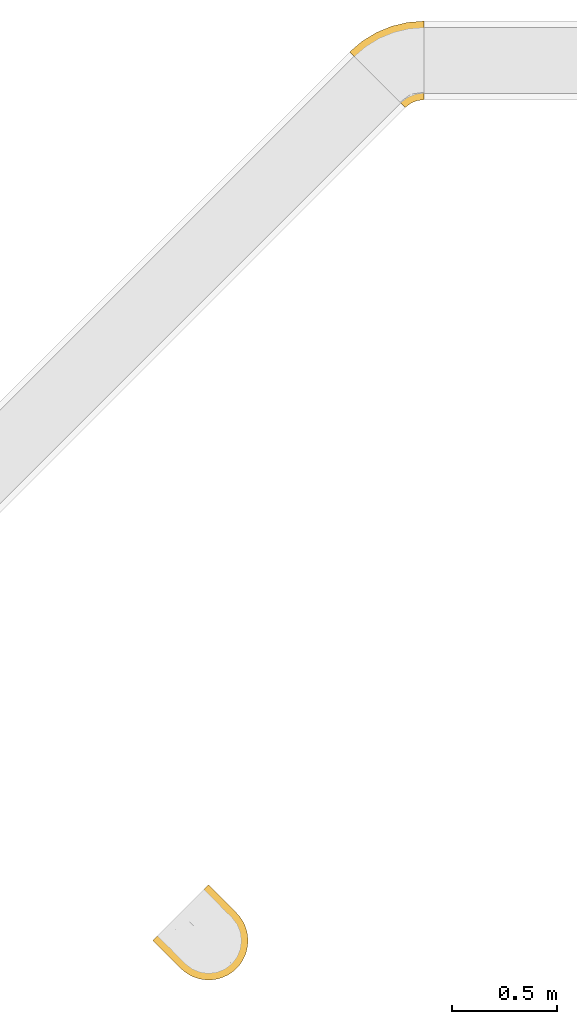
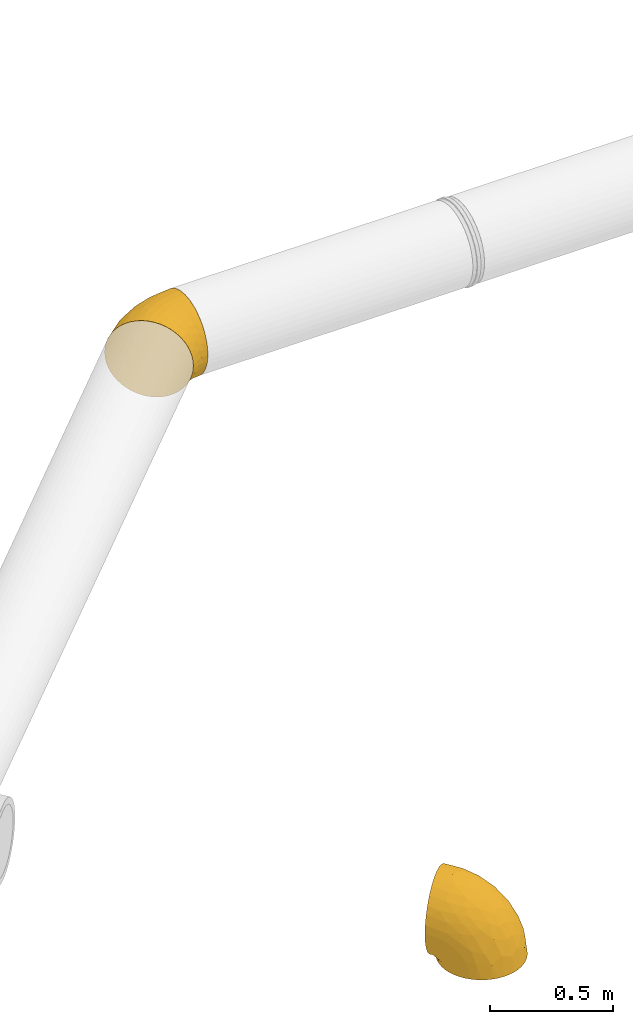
# One storey, part 3 of 7: 2 coverings.
"""IFC2X3 building model written with IfcOpenShell, lengths in millimetres."""

from ifc_helpers import new_model, entity, si_unit, converted_unit, derived_unit, direction, frame, origin_with_axes, place, context, subcontext, project, spatial, open_shell, surface_model, source, transform, mapped, element, save


model = new_model("IFC2X3")

# Units and contexts
model_context = context("Model", 3, precision=0.01, world=frame((0.0, 4.29681676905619e-09, 0.0)), true_north=direction((4.01073788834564e-13, 1.0)))
plan_context = context("Plan", 3, precision=0.01, world=frame((0.0, 4.29681676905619e-09, 0.0)), true_north=direction((4.01073788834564e-13, 1.0)))
body_context = subcontext(model_context, "Body", "Model", "MODEL_VIEW")
ifc_project = project(units=[converted_unit("PLANEANGLEUNIT", "DEGREE", entity("IfcPositiveLengthMeasure", 0.0174532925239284), si_unit("PLANEANGLEUNIT", "RADIAN"), dimensions=[0, 0, 0, 0, 0, 0, 0]), si_unit("AREAUNIT", "SQUARE_METRE"), si_unit("LENGTHUNIT", "METRE", prefix="MILLI"), si_unit("MASSUNIT", "GRAM", prefix="KILO"), si_unit("POWERUNIT", "WATT"), si_unit("PRESSUREUNIT", "PASCAL", prefix="KILO"), si_unit("FORCEUNIT", "NEWTON", prefix="KILO"), si_unit("ELECTRICVOLTAGEUNIT", "VOLT"), si_unit("ELECTRICCURRENTUNIT", "AMPERE"), si_unit("THERMODYNAMICTEMPERATUREUNIT", "DEGREE_CELSIUS"), si_unit("TIMEUNIT", "SECOND"), si_unit("VOLUMEUNIT", "CUBIC_METRE"), derived_unit("LINEARVELOCITYUNIT", [(si_unit("LENGTHUNIT", "METRE"), 1), (si_unit("TIMEUNIT", "SECOND"), -1)]), derived_unit("VOLUMETRICFLOWRATEUNIT", [(si_unit("VOLUMEUNIT", "CUBIC_METRE"), 1), (si_unit("TIMEUNIT", "SECOND"), -1)]), derived_unit("THERMALTRANSMITTANCEUNIT", [(si_unit("POWERUNIT", "WATT"), 1), (si_unit("THERMODYNAMICTEMPERATUREUNIT", "KELVIN"), -1), (si_unit("AREAUNIT", "SQUARE_METRE"), -1)]), derived_unit("SOUNDPRESSUREUNIT", [(si_unit("PRESSUREUNIT", "PASCAL"), 1)])], contexts=[model_context, plan_context])

# Site, building, storey
site_placement = place(None, frame((0.0, -4.29681676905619e-09, 0.0), z_axis=(0.0, 0.0, 1.0), x_axis=(1.0, 0.0, 0.0)))
site = spatial("IfcSite", under=ifc_project, at=site_placement, CompositionType="ELEMENT")
building_placement = place(site_placement, frame((0.0, 4.29681676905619e-09, 0.0), z_axis=(0.0, 0.0, 1.0), x_axis=(1.0, 0.0, 0.0)))
building = spatial("IfcBuilding", under=site, at=building_placement, Name="mc-building", CompositionType="ELEMENT")
storey_placement = place(building_placement, frame((0.0, 0.0, 207370.0), z_axis=(0.0, 0.0, 1.0), x_axis=(1.0, 0.0, 0.0)))
storey = spatial("IfcBuildingStorey", under=building, at=storey_placement, Name="Nivå E", CompositionType="ELEMENT", Elevation=207370.0)

# Coverings
shared_shape_1 = source(origin_with_axes(), body_context, "Body", "SurfaceModel", [
    surface_model("IfcShellBasedSurfaceModel", [(25.96801, 158.55473, 162.37804), (41.52173, 143.00099, 173.22595), (57.94361, 126.57912, 181.11), (-1.48733, 186.01005, -132.58437), (-12.92212, 197.44485, -114.14517), (11.55147, 172.97126, -148.75509), (41.52511, 142.99762, -173.22793), (25.97119, 158.55153, -162.38066), (57.9471, 126.57563, -181.11133), (92.26137, 92.26137, -187.5), (74.95619, 109.56653, -185.89598), (74.95255, 109.57017, 185.89528), (92.26137, 92.26137, 187.5), (214.75061, -30.22788, 71.75667), (220.32547, -35.80275, 48.53263), (223.70918, -39.18646, 24.47835), (126.57912, 57.94361, -181.11), (158.55473, 25.96801, -162.37804), (143.00099, 41.52173, -173.22595), (214.75201, -30.22928, -71.7519), (223.70967, -39.18694, -24.47321), (220.32641, -35.80368, -48.5277), (197.44711, -12.92437, -114.14103), (207.08182, -22.55909, -93.74847), (-130.47727, 187.5, 0.0), (-130.47727, 182.79898, -41.72268), (-130.47727, 168.93166, -81.3532), (-130.47727, 182.79898, 41.72268), (-130.47727, 81.3532, -168.93166), (-130.47727, 146.5934, -116.90434), (-130.47727, 116.90434, -146.5934), (-130.47727, 41.72268, -182.79898), (-130.47727, 168.93166, 81.3532), (-130.47727, 116.90434, 146.5934), (-130.47727, 146.5934, 116.90434), (-130.47727, 81.3532, 168.93166), (-130.47727, 41.72268, 182.79898), (-130.47727, -81.3532, 168.93166), (-130.47727, 0.0, 187.5), (-130.47727, -146.5934, -116.90434), (-130.47727, 0.0, -187.5), (-130.47727, -41.72268, -182.79898), (-130.47727, -116.90434, -146.5934), (-130.47727, -81.3532, -168.93166), (-130.47727, -168.93166, -81.3532), (-130.47727, -182.79898, -41.72268), (-130.47727, -187.5, 0.0), (-130.47727, -146.5934, 116.90434), (-130.47727, -116.90434, 146.5934), (-130.47727, -41.72268, 182.79898), (-130.47727, -182.79898, 41.72268), (-130.47727, -168.93166, 81.3532), (-13.05757, -163.66129, 59.3682), (24.80377, -162.9059, 0.0), (119.0438, -110.6974, 57.59217), (-51.86895, -181.31339, 0.0), (105.63611, -35.5905, 153.49277), (186.01005, -1.48733, 132.58437), (172.97126, 11.55147, 148.75509), (-9.93199, 23.97795, 187.5), (-69.02382, 6.05264, 187.5), (-24.18486, -21.4377, 183.64424), (97.65295, -132.73078, 0.0), (-44.60167, -152.43414, 97.33404), (-51.53473, -100.6689, 153.20219), (-33.06137, -124.89279, 129.54682), (32.06085, -79.17147, 150.84226), (127.27541, -88.98516, 90.50929), (197.44485, -12.92212, 114.14517), (116.12075, -71.64393, 120.57518), (50.36585, -123.55198, 98.77102), (126.57563, 57.9471, 181.11133), (109.56653, 74.95619, 185.89598), (51.12215, 15.82916, 184.20938), (44.27021, -104.114, 125.74419), (-41.85647, -63.36274, 172.4497), (43.13394, -25.86216, 174.91765), (158.55153, 25.97119, 162.38066), (142.99762, 41.52511, 173.22793), (164.88481, -91.53104, 0.0), (44.52735, 53.08707, 187.5), (207.07998, -22.55726, 93.75296), (224.84389, -40.32116, 0.0), (-47.41546, 41.18188, 185.26549), (-90.30031, 32.39972, 185.15554), (-12.69755, 140.13908, 155.89877), (11.54854, 172.97418, 148.75191), (-1.48994, 186.01266, 132.58067), (-109.97195, 186.96828, 28.40047), (-103.09719, 179.72115, 61.92732), (-80.72819, 192.57862, 41.47092), (-73.98975, 179.4645, 82.92771), (-55.53136, 199.77987, 60.26883), (33.25128, 86.12967, 184.46576), (-5.36458, 59.69187, 184.97223), (-68.10413, 69.73407, 176.97813), (-90.18339, 137.0884, 132.58252), (-102.95113, 161.20468, 99.75601), (-76.21987, 159.67276, 111.8718), (-3.52668, 94.16287, 177.54812), (-50.08014, 120.10333, 155.89877), (-91.80882, 103.25788, 158.76079), (-55.16911, 209.52809, 27.97056), (-35.80368, 220.32641, 48.5277), (-39.18694, 223.70967, 24.47321), (-61.81071, 142.82054, 135.46768), (-43.56419, 164.2286, 123.62552), (-66.72727, 204.58175, 0.0), (-97.47784, 191.84445, 0.0), (-30.22928, 214.75201, 71.7519), (-48.74427, 185.8428, 94.13978), (-40.32116, 224.84389, 0.0), (-12.92437, 197.44711, 114.14103), (-22.55909, 207.08182, 93.74847), (-80.73721, 194.91688, -30.37679), (-96.45994, 181.23581, -61.92732), (-108.82318, 186.79358, -30.65098), (-41.59483, 183.04124, -104.17209), (-93.7433, 64.60752, -176.97813), (-22.55726, 207.07998, -93.75296), (-89.01133, 33.60428, -184.99189), (-102.40899, 161.30269, -99.75601), (-62.93987, 123.78349, -150.21941), (-91.80882, 103.25788, -158.76079), (-90.18339, 137.08839, -132.58252), (-41.19931, 100.78752, -168.16434), (-51.42745, 54.40765, -182.57745), (-61.97395, 195.83492, -60.27369), (-69.8056, 167.92129, -104.17208), (8.41707, 101.46703, -177.54975), (3.9859, 63.4371, -185.12386), (-64.37689, 148.35214, -129.36737), (-9.93199, 23.97795, -187.5), (-69.02382, 6.05264, -187.5), (38.12068, 88.84369, -184.58833), (-35.80275, 220.32547, -48.53263), (-30.22788, 214.75061, -71.75667), (-34.90126, 149.20068, -140.97156), (-55.55153, 208.73408, -30.66315), (44.52735, 53.08707, -187.5), (-39.18646, 223.70918, -24.47835), (-12.3742, 128.3696, -162.15411), (-41.88258, -63.3573, -172.45452), (-24.18548, -21.43621, -183.64457), (51.11487, 15.81953, -184.20854), (43.10908, -25.88229, -174.91509), (109.57017, 74.95255, -185.89528), (124.53859, -90.41669, -90.97105), (186.01266, -1.48994, -132.58067), (98.55237, -82.93391, -119.92093), (105.58832, -35.63101, -153.48792), (-51.57955, -100.6989, -153.18729), (31.95353, -79.22568, -150.83546), (-33.12913, -124.90567, -129.549), (29.33211, -124.25912, -109.18968), (-44.40359, -152.35948, -97.39592), (-34.47301, -168.2494, -59.84396), (140.05003, -97.4628, -58.11849), (60.3088, -145.59836, -38.29305), (56.2981, -133.10755, -78.06868), (172.97418, 11.54854, -148.75191)], [open_shell([[[0, 1, 2]], [[3, 4, 5]], [[5, 6, 7]], [[6, 5, 8]], [[8, 9, 10]], [[11, 12, 9]], [[13, 14, 15]], [[16, 17, 18]], [[19, 20, 21]], [[22, 19, 23]], [[24, 25, 26]], [[27, 24, 26]], [[26, 28, 27]], [[29, 30, 28]], [[26, 29, 28]], [[27, 28, 31]], [[32, 33, 34]], [[33, 32, 27]], [[35, 33, 36]], [[36, 33, 27]], [[31, 36, 27]], [[36, 37, 38]], [[36, 31, 39]], [[39, 40, 41]], [[42, 41, 43]], [[39, 37, 36]], [[44, 45, 39]], [[39, 41, 42]], [[46, 39, 45]], [[37, 47, 48]], [[49, 38, 37]], [[50, 47, 39]], [[51, 47, 50]], [[47, 37, 39]], [[50, 39, 46]], [[31, 40, 39]], [[52, 53, 54]], [[55, 50, 46]], [[56, 57, 58]], [[59, 60, 61]], [[53, 62, 54]], [[47, 51, 63]], [[64, 65, 66]], [[67, 68, 69]], [[63, 52, 70]], [[52, 55, 53]], [[71, 72, 73]], [[70, 74, 65]], [[75, 76, 61]], [[76, 75, 66]], [[56, 77, 78]], [[75, 49, 37]], [[65, 48, 47]], [[61, 73, 59]], [[79, 54, 62]], [[60, 38, 49]], [[52, 51, 50]], [[73, 61, 76]], [[65, 64, 48]], [[56, 66, 74]], [[54, 14, 13]], [[60, 49, 61]], [[69, 68, 57]], [[70, 67, 69]], [[73, 80, 59]], [[69, 57, 56]], [[66, 75, 64]], [[14, 54, 15]], [[13, 67, 54]], [[67, 13, 81]], [[68, 67, 81]], [[79, 82, 15]], [[78, 76, 56]], [[71, 73, 76]], [[72, 80, 73]], [[12, 80, 72]], [[63, 65, 47]], [[54, 70, 52]], [[52, 63, 51]], [[67, 70, 54]], [[49, 75, 61]], [[76, 78, 71]], [[37, 48, 64]], [[66, 56, 76]], [[58, 77, 56]], [[74, 70, 69]], [[65, 63, 70]], [[79, 15, 54]], [[37, 64, 75]], [[52, 50, 55]], [[56, 74, 69]], [[66, 65, 74]], [[59, 83, 60]], [[84, 38, 60]], [[85, 86, 87]], [[88, 27, 89]], [[83, 84, 60]], [[90, 91, 92]], [[93, 94, 80]], [[94, 95, 83]], [[34, 96, 97]], [[85, 0, 86]], [[24, 27, 88]], [[97, 96, 98]], [[99, 100, 95]], [[32, 34, 97]], [[33, 35, 101]], [[102, 103, 104]], [[98, 96, 105]], [[90, 89, 91]], [[34, 33, 96]], [[27, 32, 89]], [[97, 91, 89]], [[95, 101, 35]], [[2, 1, 99]], [[84, 95, 36]], [[36, 95, 35]], [[85, 87, 106]], [[85, 99, 1]], [[97, 89, 32]], [[2, 99, 93]], [[1, 0, 85]], [[97, 98, 91]], [[90, 107, 108]], [[11, 80, 12]], [[99, 94, 93]], [[101, 96, 33]], [[103, 92, 109]], [[110, 109, 92]], [[92, 91, 110]], [[102, 92, 103]], [[95, 100, 101]], [[107, 102, 111]], [[100, 96, 101]], [[99, 85, 100]], [[91, 98, 110]], [[105, 85, 106]], [[87, 112, 106]], [[88, 90, 108]], [[110, 112, 113]], [[94, 83, 59]], [[90, 92, 102]], [[80, 94, 59]], [[95, 94, 99]], [[80, 11, 93]], [[2, 93, 11]], [[95, 84, 83]], [[38, 84, 36]], [[105, 96, 100]], [[110, 98, 106]], [[85, 105, 100]], [[106, 98, 105]], [[112, 110, 106]], [[109, 110, 113]], [[111, 102, 104]], [[90, 102, 107]], [[90, 88, 89]], [[24, 88, 108]], [[114, 115, 116]], [[116, 24, 108]], [[117, 4, 3]], [[28, 118, 31]], [[117, 119, 4]], [[108, 107, 114]], [[31, 118, 120]], [[121, 29, 26]], [[122, 123, 124]], [[28, 30, 123]], [[40, 31, 120]], [[118, 125, 126]], [[127, 128, 115]], [[118, 123, 125]], [[129, 130, 125]], [[125, 130, 126]], [[122, 124, 131]], [[127, 117, 128]], [[124, 30, 29]], [[132, 133, 126]], [[134, 8, 10]], [[115, 121, 26]], [[127, 135, 136]], [[120, 126, 133]], [[25, 115, 26]], [[117, 3, 137]], [[117, 127, 136]], [[30, 124, 123]], [[135, 127, 138]], [[136, 119, 117]], [[123, 122, 125]], [[132, 130, 139]], [[138, 111, 140]], [[138, 107, 111]], [[121, 124, 29]], [[6, 8, 129]], [[141, 6, 129]], [[129, 125, 141]], [[130, 134, 139]], [[121, 115, 128]], [[139, 134, 9]], [[128, 124, 121]], [[116, 115, 25]], [[122, 141, 125]], [[131, 117, 137]], [[3, 5, 137]], [[134, 130, 129]], [[141, 5, 7]], [[123, 118, 28]], [[126, 130, 132]], [[126, 120, 118]], [[40, 120, 133]], [[8, 134, 129]], [[134, 10, 9]], [[131, 124, 128]], [[141, 122, 137]], [[117, 131, 128]], [[137, 122, 131]], [[5, 141, 137]], [[6, 141, 7]], [[138, 114, 107]], [[115, 114, 127]], [[135, 138, 140]], [[114, 138, 127]], [[24, 116, 25]], [[114, 116, 108]], [[142, 41, 143]], [[143, 144, 145]], [[16, 144, 146]], [[143, 133, 132]], [[40, 133, 41]], [[147, 22, 23]], [[145, 16, 18]], [[148, 149, 150]], [[151, 152, 153]], [[132, 139, 144]], [[41, 142, 43]], [[42, 153, 39]], [[55, 46, 45]], [[154, 149, 147]], [[152, 154, 153]], [[44, 39, 155]], [[156, 45, 44]], [[42, 151, 153]], [[151, 43, 142]], [[156, 55, 45]], [[19, 21, 157]], [[158, 62, 53]], [[44, 155, 156]], [[155, 159, 156]], [[144, 139, 146]], [[155, 153, 154]], [[16, 145, 144]], [[156, 158, 53]], [[159, 158, 156]], [[150, 18, 17]], [[17, 160, 150]], [[149, 154, 152]], [[22, 149, 148]], [[53, 55, 156]], [[157, 158, 159]], [[150, 145, 18]], [[154, 159, 155]], [[150, 149, 152]], [[157, 147, 19]], [[159, 147, 157]], [[150, 160, 148]], [[154, 147, 159]], [[79, 157, 20]], [[142, 143, 145]], [[82, 79, 20]], [[20, 157, 21]], [[62, 157, 79]], [[157, 62, 158]], [[41, 133, 143]], [[155, 39, 153]], [[145, 150, 152]], [[146, 139, 9]], [[152, 142, 145]], [[132, 144, 143]], [[22, 147, 149]], [[19, 147, 23]], [[43, 151, 42]], [[142, 152, 151]], [[87, 86, 0]], [[136, 4, 119]], [[9, 8, 5]], [[57, 77, 58]], [[13, 68, 81]], [[17, 148, 160]], [[87, 104, 109]], [[113, 87, 109]], [[104, 103, 109]], [[135, 111, 104]], [[87, 113, 112]], [[2, 135, 0]], [[104, 0, 135]], [[87, 0, 104]], [[9, 2, 11]], [[4, 136, 5]], [[135, 5, 136]], [[140, 111, 135]], [[135, 2, 5]], [[9, 5, 2]], [[78, 12, 72]], [[78, 72, 71]], [[68, 78, 77]], [[12, 78, 16]], [[17, 78, 68]], [[19, 68, 13]], [[77, 57, 68]], [[82, 13, 15]], [[22, 148, 17]], [[78, 17, 16]], [[146, 9, 16]], [[20, 19, 82]], [[22, 17, 19]], [[68, 19, 17]], [[82, 19, 13]], [[16, 9, 12]]])]),
])
covering_1_placement = place(storey_placement, frame((601598.64514, 404951.79391, 120.0), z_axis=(0.0, 0.0, 1.0), x_axis=(-1.0, 0.0, 0.0)))
element("IfcCovering", 1, at=covering_1_placement, inside=storey, Name="EI30-30", PredefinedType="INSULATION", context=body_context, shape_type="MappedRepresentation", body=[
    mapped(shared_shape_1, transform((0.0, 0.0, 0.0), scale=1.0)),
])
shared_shape_2 = source(origin_with_axes(), body_context, "Body", "SurfaceModel", [
    surface_model("IfcShellBasedSurfaceModel", [(24.47321, 189.0, 185.89598), (71.7519, 189.0, 173.22793), (93.74847, 189.0, 162.38066), (173.22595, 189.0, 71.75667), (48.5277, 189.0, 181.11133), (-48.53263, 189.0, 181.11), (0.0, 189.0, 187.5), (114.14103, 189.0, 148.75509), (187.5, 189.0, 0.0), (181.11, 189.0, 48.53263), (-187.5, 189.0, 0.0), (148.75191, 189.0, 114.14517), (162.37804, 189.0, 93.75296), (132.58067, 189.0, 132.58437), (-71.75667, 189.0, 173.22595), (-173.22793, 189.0, 71.7519), (-114.14517, 189.0, 148.75191), (-93.75296, 189.0, 162.37804), (-132.58437, 189.0, 132.58067), (-24.47835, 189.0, 185.89528), (-148.75509, 189.0, 114.14103), (-162.38066, 189.0, 93.74847), (-185.89598, 189.0, 24.47321), (-181.11133, 189.0, 48.5277), (185.89528, 189.0, 24.47835), (162.38066, 189.0, -93.74847), (185.89598, 189.0, -24.47321), (181.11133, 189.0, -48.5277), (148.75509, 189.0, -114.14103), (173.22793, 189.0, -71.7519), (93.75296, 189.0, -162.37804), (114.14517, 189.0, -148.75191), (-185.89528, 189.0, -24.47835), (48.53263, 189.0, -181.11), (71.75667, 189.0, -173.22595), (132.58437, 189.0, -132.58067), (24.47835, 189.0, -185.89528), (-148.75191, 189.0, -114.14517), (-173.22595, 189.0, -71.75667), (-132.58067, 189.0, -132.58437), (-162.37804, 189.0, -93.75296), (-181.11, 189.0, -48.53263), (-114.14103, 189.0, -148.75509), (0.0, 189.0, -187.5), (-48.5277, 189.0, -181.11133), (-24.47321, 189.0, -185.89598), (-93.74847, 189.0, -162.38066), (-71.7519, 189.0, -173.22793), (-189.0, 187.5, 0.0), (-189.0, 182.79898, -41.72268), (-189.0, 168.93166, -81.3532), (-189.0, 182.79898, 41.72268), (-189.0, 146.5934, -116.90434), (-189.0, 81.3532, -168.93166), (-189.0, 116.90434, -146.5934), (-189.0, -182.79898, -41.72268), (-189.0, 146.5934, 116.90434), (-189.0, 168.93166, 81.3532), (-189.0, 116.90434, 146.5934), (-189.0, 81.3532, 168.93166), (-189.0, 41.72268, 182.79898), (-189.0, -41.72268, 182.79898), (-189.0, 0.0, 187.5), (-189.0, 41.72268, -182.79898), (-189.0, 0.0, -187.5), (-189.0, -41.72268, -182.79898), (-189.0, -81.3532, -168.93166), (-189.0, -146.5934, -116.90434), (-189.0, -168.93166, -81.3532), (-189.0, -116.90434, -146.5934), (-189.0, -81.3532, 168.93166), (-189.0, -182.79898, 41.72268), (-189.0, -116.90434, 146.5934), (-189.0, -187.5, 0.0), (-189.0, -146.5934, 116.90434), (-189.0, -168.93166, 81.3532), (-123.62146, -181.78011, 0.0), (131.00611, 34.7738, 86.7366), (116.2493, -23.03647, 42.29538), (150.56795, 34.06552, 34.79076), (116.75752, 49.83271, 116.46932), (138.40764, 105.96712, 114.11841), (-60.22942, -164.79427, 0.0), (-98.00606, -169.93707, 47.85062), (-34.96027, -148.60051, 44.74542), (-0.75, -137.05857, 0.0), (23.03646, -116.24931, 42.29538), (107.19325, 129.21733, 149.49804), (19.40719, 39.31564, 174.89339), (-28.74646, 28.74646, 183.68459), (-21.32444, -11.28474, 173.03875), (53.00954, -99.41573, 0.0), (99.41573, -53.00954, 0.0), (75.28762, -75.28762, 31.94231), (-4.73862, 146.94355, 187.5), (18.17023, 97.11479, 183.68459), (153.59609, 90.58253, 84.35671), (17.543, -105.37318, 77.78346), (-70.75464, -94.53068, 145.55102), (-113.41751, -131.91148, 123.94346), (-42.08623, -113.92396, 115.54163), (63.72205, 103.75344, 170.63722), (-135.02934, -103.2027, 153.16943), (97.81471, 67.75231, 142.04563), (-119.61091, -71.50772, 169.29677), (-49.02927, -56.6938, 162.36989), (-117.75937, -158.26252, 88.13487), (65.06652, 18.70282, 146.62799), (23.43514, -1.10654, 161.01355), (-81.78041, -33.85675, 178.20339), (-106.99598, 18.71688, 187.5), (-146.94355, 4.73862, 187.5), (83.67589, -13.979, 111.24879), (-71.16043, 41.23385, 187.5), (68.22673, -68.22674, 67.90038), (137.05857, 0.75, 0.0), (181.78011, 123.62146, 0.0), (167.74294, 94.73946, 52.54839), (164.79427, 60.22942, 0.0), (-44.5778, -138.76006, 80.86028), (104.71048, -19.65463, 76.28221), (26.68706, -77.15993, 107.5593), (-18.71688, 106.99598, 187.5), (-41.23385, 71.16043, 187.5), (-15.80153, -68.72924, 142.79137), (32.01071, -32.01072, 141.03219), (-176.19751, 134.05432, 132.58252), (-124.93387, 87.03934, 174.50712), (-102.05216, 113.98818, 172.20789), (-131.42615, 119.01311, 159.62027), (-105.67825, 56.3942, 184.68124), (-140.57933, 50.62167, 182.6443), (-85.33438, 85.33438, 182.6443), (-102.14389, 144.93778, 163.5985), (-107.6681, 164.89824, 155.89875), (-127.09675, 157.59639, 144.4135), (-167.47117, 64.84754, 176.60099), (-143.86207, 172.58968, 123.62553), (-39.76273, 158.03345, 183.89637), (-71.19509, 113.22127, 181.00383), (-185.45311, 177.51326, 61.92732), (-146.89268, 80.62835, 172.81725), (-187.25737, 185.15926, 31.80733), (-188.17458, 184.97405, 31.17412), (-157.7607, 158.9357, 118.08522), (-174.31638, 162.56515, 99.75601), (-158.02682, 135.13338, 138.06488), (-162.20621, 103.87315, 158.76079), (-182.51023, 159.46539, 99.75601), (-41.61213, 128.81705, 185.11701), (-183.9143, 182.0876, 51.04398), (-187.67047, 188.58845, 0.0), (-185.16722, 188.09782, 30.13522), (-68.66665, 166.65327, 175.26966), (-68.79156, 142.9523, 177.5481), (-149.5197, 164.34126, 121.91708), (-171.28406, 178.03323, 82.92773), (-178.03267, 185.70976, 60.26884), (-164.19163, 180.10848, 93.28671), (-187.93935, 187.93935, 0.0), (-184.11046, 185.16402, 41.78253), (-187.80491, 188.26389, 0.0), (-185.23431, 187.29613, 31.31337), (-144.76419, 107.27908, 161.01524), (-174.15834, 172.3665, 85.81845), (-142.46299, 141.61551, 141.8775), (-121.5135, 137.60599, 155.89875), (-188.58845, 187.67047, 0.0), (-188.26389, 187.80491, 0.0), (-128.84212, 131.28567, -154.91204), (-131.04861, 96.77089, -169.54109), (-156.03415, 134.54028, -139.44948), (-142.2154, 55.29731, -181.42323), (-146.94355, 4.73862, -187.5), (-112.0226, 66.49117, -182.18806), (-185.7308, 177.43118, -61.92732), (-188.22568, 185.12898, -30.19768), (-187.11968, 184.86731, -33.62861), (-168.58706, 184.81279, -82.93238), (-182.1809, 175.37349, -70.44749), (-175.94635, 161.72341, -99.75601), (-103.84817, 116.33511, -170.93368), (-182.82158, 159.3987, -99.75601), (-164.45977, 178.11373, -94.14081), (-143.76612, 172.84577, -123.62946), (-60.1877, 118.4714, -182.70247), (-96.28123, 137.4776, -168.16434), (-64.90654, 154.75785, -177.54975), (-34.51671, 159.66931, -184.79108), (-164.12888, 103.29168, -158.76079), (-176.48127, 133.98897, -132.58252), (-88.83711, 88.83711, -181.42323), (-41.23385, 71.16043, -187.5), (-178.28483, 184.95886, -60.2737), (-71.16043, 41.23385, -187.5), (-106.99598, 18.71688, -187.5), (-184.00047, 187.97446, -36.58382), (-183.82381, 184.93915, -43.34552), (-183.6807, 181.63928, -52.77894), (-107.22395, 166.43484, -155.90166), (-18.71688, 106.99598, -187.5), (-126.01449, 155.18982, -146.10544), (-4.73862, 146.94355, -187.5), (-174.76991, 179.54278, -74.84557), (-175.68521, 175.16231, -79.53188), (-185.51339, 187.5678, -29.08331), (-162.89206, 168.65135, -104.1721), (-164.9754, 158.84407, -111.9055), (-148.21405, 151.94375, -131.25784), (-97.11479, -18.17023, -183.68459), (-48.23043, 14.5631, -184.17535), (98.60823, -20.79783, -85.2547), (116.24915, -23.03632, -42.29626), (68.22613, -68.22614, -67.90256), (-135.02934, -103.2027, -153.16943), (-34.42579, -150.67629, -35.05873), (145.66368, 33.32857, -52.16262), (59.76594, -46.53568, -107.56027), (14.50854, -99.92042, -90.16249), (27.22213, 117.23844, -183.43744), (4.88899, 53.72193, -181.40522), (167.74556, 94.74468, -52.54432), (131.01059, 34.77908, -86.73326), (152.46649, 111.26885, -95.76084), (86.80078, 121.18804, -161.6428), (56.93854, 67.23637, -166.90675), (-100.96823, -62.94973, -170.55787), (-39.31565, -19.40719, -174.89339), (-117.75937, -158.26252, -88.13487), (-98.00606, -169.93707, -47.85062), (-70.75464, -94.53068, -145.55102), (-42.08623, -113.92396, -115.54163), (-113.41751, -131.91148, -123.94346), (-10.87593, -77.04119, -133.98433), (-34.10026, -55.62578, -158.26296), (32.01071, -32.01072, -141.03219), (-44.5778, -138.76006, -80.86028), (23.03631, -116.24916, -42.29626), (8.87141, -12.73791, -162.47798), (87.29979, 17.39778, -128.80849), (120.36823, 90.87804, -129.54078), (75.28746, -75.28747, -31.94355)], [open_shell([[[0, 1, 2]], [[3, 0, 2]], [[0, 4, 1]], [[5, 6, 0]], [[3, 2, 7]], [[8, 3, 9]], [[0, 8, 10]], [[11, 12, 3]], [[11, 3, 13]], [[7, 13, 3]], [[0, 3, 8]], [[14, 15, 16]], [[14, 5, 15]], [[14, 16, 17]], [[18, 16, 15]], [[19, 6, 5]], [[20, 15, 21]], [[20, 18, 15]], [[15, 22, 23]], [[22, 15, 10]], [[0, 15, 5]], [[10, 15, 0]], [[8, 9, 24]], [[25, 8, 26]], [[25, 26, 27]], [[25, 28, 8]], [[25, 27, 29]], [[8, 28, 30]], [[31, 30, 28]], [[8, 30, 32]], [[30, 33, 32]], [[33, 30, 34]], [[35, 31, 28]], [[32, 33, 36]], [[37, 38, 39]], [[38, 37, 40]], [[32, 38, 41]], [[39, 38, 42]], [[43, 38, 32]], [[44, 43, 45]], [[43, 44, 46]], [[43, 46, 42]], [[46, 44, 47]], [[43, 42, 38]], [[32, 36, 43]], [[8, 32, 10]], [[48, 49, 50]], [[51, 48, 50]], [[52, 53, 51]], [[52, 54, 53]], [[52, 51, 50]], [[53, 55, 51]], [[51, 56, 57]], [[56, 51, 58]], [[59, 58, 60]], [[61, 60, 58]], [[60, 61, 62]], [[51, 61, 58]], [[53, 63, 64]], [[64, 65, 66]], [[66, 55, 53]], [[67, 55, 66]], [[68, 55, 67]], [[67, 66, 69]], [[51, 55, 61]], [[70, 71, 72]], [[73, 70, 61]], [[71, 74, 72]], [[75, 74, 71]], [[71, 70, 73]], [[61, 55, 73]], [[66, 53, 64]], [[73, 76, 71]], [[77, 78, 79]], [[80, 77, 81]], [[76, 82, 83]], [[84, 85, 86]], [[87, 13, 7]], [[83, 75, 71]], [[88, 89, 90]], [[91, 92, 93]], [[0, 94, 95]], [[96, 81, 77]], [[84, 86, 97]], [[98, 99, 100]], [[4, 101, 1]], [[91, 86, 85]], [[72, 102, 70]], [[101, 103, 87]], [[104, 98, 105]], [[75, 83, 106]], [[107, 88, 108]], [[104, 61, 70]], [[109, 110, 111]], [[91, 93, 86]], [[111, 62, 61]], [[111, 61, 109]], [[96, 3, 12]], [[107, 112, 80]], [[88, 95, 89]], [[110, 109, 89]], [[110, 89, 113]], [[114, 93, 78]], [[80, 112, 77]], [[99, 98, 102]], [[115, 78, 92]], [[81, 96, 11]], [[116, 117, 118]], [[24, 117, 116]], [[87, 81, 13]], [[84, 119, 83]], [[9, 117, 24]], [[11, 96, 12]], [[9, 3, 117]], [[120, 114, 78]], [[115, 118, 79]], [[97, 114, 121]], [[8, 24, 116]], [[114, 112, 121]], [[71, 76, 83]], [[88, 101, 95]], [[0, 6, 94]], [[81, 11, 13]], [[122, 123, 95]], [[107, 101, 88]], [[94, 122, 95]], [[81, 87, 103]], [[4, 0, 95]], [[89, 123, 113]], [[95, 123, 89]], [[105, 124, 108]], [[72, 74, 99]], [[87, 2, 1]], [[1, 101, 87]], [[87, 7, 2]], [[95, 101, 4]], [[83, 119, 106]], [[79, 118, 117]], [[106, 74, 75]], [[90, 89, 109]], [[100, 99, 119]], [[78, 93, 92]], [[86, 93, 114]], [[105, 90, 109]], [[108, 88, 90]], [[104, 105, 109]], [[105, 98, 124]], [[61, 104, 109]], [[104, 70, 102]], [[105, 108, 90]], [[107, 108, 125]], [[107, 125, 112]], [[101, 107, 103]], [[121, 112, 125]], [[120, 112, 114]], [[125, 108, 124]], [[114, 97, 86]], [[100, 124, 98]], [[121, 125, 124]], [[97, 100, 119]], [[124, 100, 121]], [[119, 99, 106]], [[74, 106, 99]], [[99, 102, 72]], [[104, 102, 98]], [[100, 97, 121]], [[84, 97, 119]], [[77, 117, 96]], [[96, 117, 3]], [[81, 103, 80]], [[80, 103, 107]], [[77, 79, 117]], [[115, 79, 78]], [[78, 77, 120]], [[112, 120, 77]], [[83, 82, 84]], [[85, 84, 82]], [[60, 62, 111]], [[58, 126, 56]], [[127, 128, 129]], [[130, 131, 110]], [[132, 113, 123]], [[133, 134, 135]], [[127, 130, 132]], [[136, 60, 131]], [[137, 18, 20]], [[111, 110, 131]], [[94, 19, 138]], [[123, 122, 139]], [[140, 51, 57]], [[60, 111, 131]], [[141, 131, 127]], [[142, 143, 140]], [[130, 110, 113]], [[143, 51, 140]], [[144, 145, 146]], [[147, 58, 59]], [[148, 57, 56]], [[122, 149, 139]], [[127, 132, 128]], [[128, 132, 139]], [[138, 149, 94]], [[150, 140, 145]], [[94, 6, 19]], [[10, 151, 152]], [[134, 18, 137]], [[153, 5, 14]], [[16, 18, 134]], [[149, 138, 154]], [[17, 16, 134]], [[155, 156, 144]], [[157, 156, 158]], [[138, 5, 153]], [[148, 56, 126]], [[158, 20, 21]], [[15, 157, 158]], [[145, 126, 146]], [[153, 154, 138]], [[15, 23, 157]], [[153, 17, 134]], [[159, 160, 161]], [[152, 162, 157]], [[151, 161, 162]], [[58, 147, 126]], [[162, 152, 151]], [[135, 134, 137]], [[21, 15, 158]], [[131, 141, 136]], [[19, 5, 138]], [[48, 51, 143]], [[152, 23, 22]], [[146, 126, 147]], [[148, 145, 140]], [[129, 163, 127]], [[164, 150, 145]], [[165, 146, 129]], [[155, 165, 166]], [[145, 144, 164]], [[143, 142, 167]], [[159, 150, 160]], [[164, 160, 150]], [[162, 156, 157]], [[145, 148, 126]], [[140, 57, 148]], [[132, 130, 113]], [[131, 130, 127]], [[161, 160, 162]], [[156, 162, 160]], [[23, 152, 157]], [[10, 152, 22]], [[139, 149, 154]], [[94, 149, 122]], [[133, 128, 139]], [[123, 139, 132]], [[133, 139, 154]], [[128, 166, 129]], [[165, 129, 166]], [[163, 146, 147]], [[17, 153, 14]], [[134, 154, 153]], [[155, 166, 135]], [[146, 165, 144]], [[146, 163, 129]], [[141, 163, 147]], [[155, 158, 156]], [[158, 137, 20]], [[155, 135, 137]], [[133, 135, 166]], [[155, 137, 158]], [[165, 155, 144]], [[128, 133, 166]], [[154, 134, 133]], [[167, 142, 168]], [[48, 143, 167]], [[150, 159, 168]], [[140, 150, 142]], [[150, 168, 142]], [[163, 141, 127]], [[136, 147, 59]], [[147, 136, 141]], [[60, 136, 59]], [[144, 156, 164]], [[160, 164, 156]], [[169, 170, 171]], [[53, 172, 63]], [[173, 63, 172]], [[174, 172, 170]], [[175, 176, 177]], [[37, 178, 40]], [[179, 180, 175]], [[181, 170, 169]], [[175, 180, 182]], [[183, 178, 184]], [[185, 186, 187]], [[188, 44, 45]], [[64, 63, 173]], [[189, 190, 171]], [[174, 170, 191]], [[185, 192, 191]], [[182, 52, 50]], [[189, 172, 53]], [[193, 178, 183]], [[190, 189, 54]], [[191, 192, 194]], [[184, 37, 39]], [[195, 172, 174]], [[196, 32, 41]], [[32, 196, 10]], [[190, 54, 52]], [[41, 38, 196]], [[159, 197, 198]], [[189, 171, 170]], [[193, 196, 178]], [[178, 37, 184]], [[39, 199, 184]], [[199, 42, 46]], [[188, 200, 185]], [[201, 199, 186]], [[199, 39, 42]], [[50, 49, 175]], [[187, 199, 46]], [[187, 47, 44]], [[187, 46, 47]], [[48, 167, 176]], [[187, 186, 199]], [[45, 202, 188]], [[195, 173, 172]], [[43, 202, 45]], [[38, 40, 178]], [[197, 203, 204]], [[187, 188, 185]], [[189, 53, 54]], [[205, 196, 193]], [[170, 172, 189]], [[178, 196, 38]], [[10, 196, 151]], [[184, 199, 201]], [[49, 176, 175]], [[198, 179, 177]], [[205, 197, 161]], [[198, 197, 204]], [[184, 206, 183]], [[203, 183, 206]], [[204, 207, 180]], [[169, 186, 181]], [[182, 190, 52]], [[171, 190, 180]], [[175, 182, 50]], [[190, 182, 180]], [[208, 171, 207]], [[201, 206, 184]], [[192, 185, 200]], [[181, 185, 191]], [[197, 159, 161]], [[151, 196, 205]], [[193, 183, 203]], [[197, 205, 193]], [[161, 151, 205]], [[186, 169, 201]], [[201, 169, 208]], [[203, 206, 204]], [[193, 203, 197]], [[207, 204, 206]], [[179, 204, 180]], [[208, 207, 206]], [[171, 180, 207]], [[201, 208, 206]], [[171, 208, 169]], [[188, 202, 200]], [[44, 188, 187]], [[191, 194, 174]], [[195, 174, 194]], [[48, 176, 49]], [[168, 177, 167]], [[198, 168, 159]], [[167, 177, 176]], [[168, 198, 177]], [[177, 179, 175]], [[204, 179, 198]], [[185, 181, 186]], [[170, 181, 191]], [[209, 195, 210]], [[211, 212, 213]], [[66, 214, 69]], [[85, 82, 215]], [[64, 173, 209]], [[212, 211, 216]], [[195, 194, 210]], [[217, 213, 218]], [[219, 200, 202]], [[220, 192, 200]], [[221, 222, 223]], [[192, 220, 210]], [[219, 224, 225]], [[226, 209, 227]], [[228, 229, 68]], [[226, 230, 214]], [[76, 73, 55]], [[231, 232, 230]], [[228, 67, 232]], [[65, 209, 226]], [[233, 234, 235]], [[82, 229, 215]], [[215, 236, 237]], [[229, 82, 76]], [[69, 214, 232]], [[216, 115, 212]], [[234, 238, 235]], [[67, 69, 232]], [[115, 92, 212]], [[211, 239, 222]], [[43, 219, 202]], [[218, 237, 236]], [[220, 200, 219]], [[239, 225, 224]], [[36, 219, 43]], [[76, 55, 229]], [[195, 209, 173]], [[224, 219, 33]], [[224, 31, 240]], [[31, 224, 30]], [[240, 35, 223]], [[65, 226, 66]], [[64, 209, 65]], [[28, 223, 35]], [[232, 231, 236]], [[224, 34, 30]], [[239, 224, 240]], [[91, 241, 92]], [[118, 221, 116]], [[118, 115, 216]], [[92, 241, 212]], [[35, 240, 31]], [[221, 223, 29]], [[223, 28, 25]], [[27, 26, 221]], [[223, 25, 29]], [[26, 8, 116]], [[237, 91, 85]], [[210, 227, 209]], [[221, 26, 116]], [[218, 236, 231]], [[221, 29, 27]], [[240, 223, 222]], [[213, 241, 237]], [[234, 226, 227]], [[33, 34, 224]], [[68, 229, 55]], [[238, 220, 225]], [[228, 236, 229]], [[237, 241, 91]], [[212, 241, 213]], [[192, 210, 194]], [[220, 227, 210]], [[230, 233, 231]], [[218, 231, 233]], [[233, 217, 218]], [[237, 218, 213]], [[239, 217, 235]], [[211, 213, 217]], [[225, 239, 235]], [[222, 239, 240]], [[234, 233, 230]], [[217, 233, 235]], [[226, 234, 230]], [[234, 227, 238]], [[220, 238, 227]], [[225, 235, 238]], [[33, 219, 36]], [[225, 220, 219]], [[67, 228, 68]], [[232, 236, 228]], [[226, 214, 66]], [[232, 214, 230]], [[239, 211, 217]], [[211, 222, 216]], [[222, 221, 216]], [[118, 216, 221]], [[236, 215, 229]], [[85, 215, 237]]])]),
])
covering_2_placement = place(storey_placement, frame((600701.00455, 400750.8939, 120.0), z_axis=(0.707106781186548, 0.707106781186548, 0.0), x_axis=(0.707106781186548, -0.707106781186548, 0.0)))
element("IfcCovering", 2, at=covering_2_placement, inside=storey, Name="EI30-30", PredefinedType="INSULATION", context=body_context, shape_type="MappedRepresentation", body=[
    mapped(shared_shape_2, transform((0.0, 0.0, 0.0), scale=1.0)),
])

save(model, "model.ifc")
